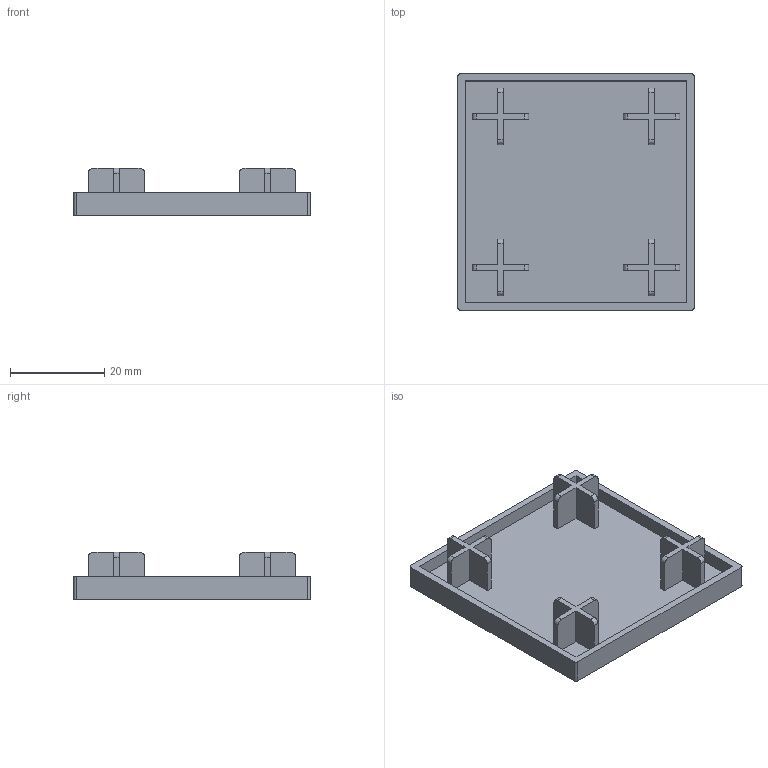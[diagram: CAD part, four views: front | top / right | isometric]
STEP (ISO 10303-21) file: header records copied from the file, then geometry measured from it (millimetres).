
FILE_DESCRIPTION(/* description */ (''),/* implementation_level */ '2;1');
FILE_NAME(/* name */ 'D:\cadd\new~產品型錄\端蓋\公模端蓋\AM8-U5050.stp',/* time_stamp */ '2016-12-09T17:10:44+08:00',/* author */ ('Owner'),/* organization */ (''),/* preprocessor_version */ 'ST-DEVELOPER v15.2',/* originating_system */ 'Autodesk Inventor 2014',/* authorisation */ '');
FILE_SCHEMA (('AUTOMOTIVE_DESIGN { 1 0 10303 214 3 1 1 }'));
Length unit declared in the file: millimetre
Products named in the file (1): AM8-U5050
Bounding box: 50 x 50 x 10 mm (x, y, z)
Volume: 6743.3 mm3; surface area: 8080.2 mm2
Topology: 1 solids, 1 shells, 83 faces, 228 edges, 152 vertices
Faces by surface type: plane 63, cylinder 20
Entity records: 2643 total; most frequent: CARTESIAN_POINT 464, ORIENTED_EDGE 456, DIRECTION 436, EDGE_CURVE 228, LINE 188, VECTOR 188, VERTEX_POINT 152, AXIS2_PLACEMENT_3D 124
